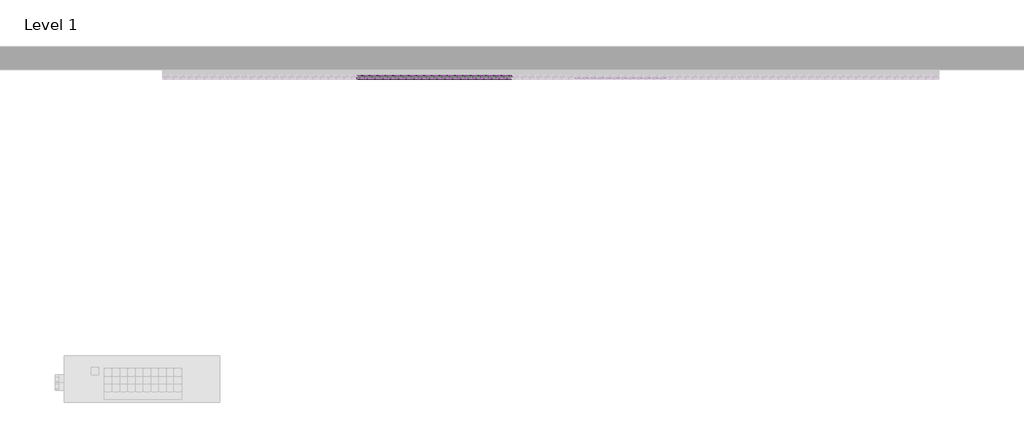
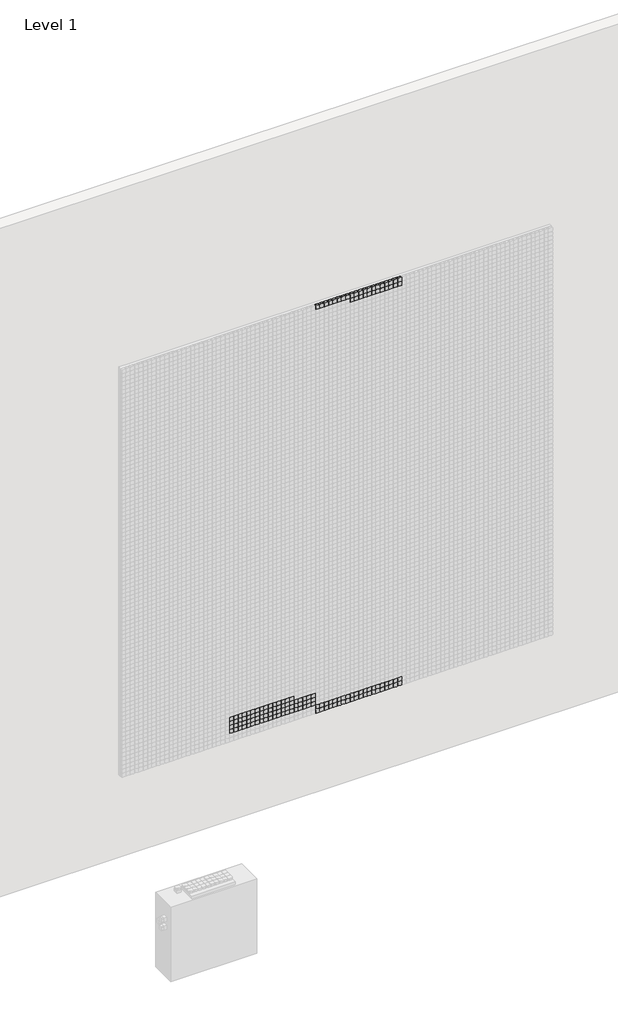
# One storey, part 34 of 71: 147 proxies.
"""IFC4 building model written with IfcOpenShell, lengths in millimetres."""

from ifc_helpers import new_model, si_unit, origin, place, context, project, spatial, transform, mapped, element, save
from components import generic_models_afde289c

model = new_model("IFC4")

# Units and contexts
model_context = context("Model", 3, world=origin())
ifc_project = project(units=[si_unit("LENGTHUNIT", "METRE", prefix="MILLI")], contexts=[model_context])

# Site, building, storey
site = spatial("IfcSite", under=ifc_project)
building = spatial("IfcBuilding", under=site)
storey = spatial("IfcBuildingStorey", under=building, Name="Level 1", Elevation=0.0)

# Proxies
placement = place(None, origin())
generic_models_shape = generic_models_afde289c(model_context)
element("IfcBuildingElementProxy", 1, Name="Pixel_M : Pixel_M", ObjectType="Pixel_M : Pixel_M", at=placement, inside=storey, context=model_context, shape_type="MappedRepresentation", body=[
    mapped(generic_models_shape, transform((7962.4280941, -75.0, 1016.3566215), x_axis=(1.0, 0.0, 0.0), y_axis=(0.0, 0.0, 1.0), z_axis=(0.0, -1.0, 0.0))),
])
element("IfcBuildingElementProxy", 2, Name="Pixel_M : Pixel_M", ObjectType="Pixel_M : Pixel_M", at=placement, inside=storey, context=model_context, shape_type="MappedRepresentation", body=[
    mapped(generic_models_shape, transform((7912.4280941, -75.0, 1016.3566215), x_axis=(1.0, 0.0, 0.0), y_axis=(0.0, 0.0, 1.0), z_axis=(0.0, -1.0, 0.0))),
])
element("IfcBuildingElementProxy", 3, Name="Pixel_M : Pixel_M", ObjectType="Pixel_M : Pixel_M", at=placement, inside=storey, context=model_context, shape_type="MappedRepresentation", body=[
    mapped(generic_models_shape, transform((7862.4280941, -75.0, 1016.3566215), x_axis=(1.0, 0.0, 0.0), y_axis=(0.0, 0.0, 1.0), z_axis=(0.0, -1.0, 0.0))),
])
element("IfcBuildingElementProxy", 4, Name="Pixel_M : Pixel_M", ObjectType="Pixel_M : Pixel_M", at=placement, inside=storey, context=model_context, shape_type="MappedRepresentation", body=[
    mapped(generic_models_shape, transform((7812.4280941, -75.0, 1016.3566215), x_axis=(1.0, 0.0, 0.0), y_axis=(0.0, 0.0, 1.0), z_axis=(0.0, -1.0, 0.0))),
])
element("IfcBuildingElementProxy", 5, Name="Pixel_M : Pixel_M", ObjectType="Pixel_M : Pixel_M", at=placement, inside=storey, context=model_context, shape_type="MappedRepresentation", body=[
    mapped(generic_models_shape, transform((7762.4280941, -75.0, 1016.3566215), x_axis=(1.0, 0.0, 0.0), y_axis=(0.0, 0.0, 1.0), z_axis=(0.0, -1.0, 0.0))),
])
element("IfcBuildingElementProxy", 6, Name="Pixel_M : Pixel_M", ObjectType="Pixel_M : Pixel_M", at=placement, inside=storey, context=model_context, shape_type="MappedRepresentation", body=[
    mapped(generic_models_shape, transform((7712.4280941, -75.0, 1016.3566215), x_axis=(1.0, 0.0, 0.0), y_axis=(0.0, 0.0, 1.0), z_axis=(0.0, -1.0, 0.0))),
])
element("IfcBuildingElementProxy", 7, Name="Pixel_M : Pixel_M", ObjectType="Pixel_M : Pixel_M", at=placement, inside=storey, context=model_context, shape_type="MappedRepresentation", body=[
    mapped(generic_models_shape, transform((7662.4280941, -75.0, 1016.3566215), x_axis=(1.0, 0.0, 0.0), y_axis=(0.0, 0.0, 1.0), z_axis=(0.0, -1.0, 0.0))),
])
element("IfcBuildingElementProxy", 8, Name="Pixel_M : Pixel_M", ObjectType="Pixel_M : Pixel_M", at=placement, inside=storey, context=model_context, shape_type="MappedRepresentation", body=[
    mapped(generic_models_shape, transform((7612.4280941, -75.0, 1016.3566215), x_axis=(1.0, 0.0, 0.0), y_axis=(0.0, 0.0, 1.0), z_axis=(0.0, -1.0, 0.0))),
])
element("IfcBuildingElementProxy", 9, Name="Pixel_M : Pixel_M", ObjectType="Pixel_M : Pixel_M", at=placement, inside=storey, context=model_context, shape_type="MappedRepresentation", body=[
    mapped(generic_models_shape, transform((7562.4280941, -75.0, 1016.3566215), x_axis=(1.0, 0.0, 0.0), y_axis=(0.0, 0.0, 1.0), z_axis=(0.0, -1.0, 0.0))),
])
element("IfcBuildingElementProxy", 10, Name="Pixel_M : Pixel_M", ObjectType="Pixel_M : Pixel_M", at=placement, inside=storey, context=model_context, shape_type="MappedRepresentation", body=[
    mapped(generic_models_shape, transform((7512.4280941, -75.0, 1016.3566215), x_axis=(1.0, 0.0, 0.0), y_axis=(0.0, 0.0, 1.0), z_axis=(0.0, -1.0, 0.0))),
])
element("IfcBuildingElementProxy", 11, Name="Pixel_M : Pixel_M", ObjectType="Pixel_M : Pixel_M", at=placement, inside=storey, context=model_context, shape_type="MappedRepresentation", body=[
    mapped(generic_models_shape, transform((7462.4280941, -75.0, 1016.3566215), x_axis=(1.0, 0.0, 0.0), y_axis=(0.0, 0.0, 1.0), z_axis=(0.0, -1.0, 0.0))),
])
element("IfcBuildingElementProxy", 12, Name="Pixel_M : Pixel_M", ObjectType="Pixel_M : Pixel_M", at=placement, inside=storey, context=model_context, shape_type="MappedRepresentation", body=[
    mapped(generic_models_shape, transform((7412.4280941, -75.0, 1016.3566215), x_axis=(1.0, 0.0, 0.0), y_axis=(0.0, 0.0, 1.0), z_axis=(0.0, -1.0, 0.0))),
])
element("IfcBuildingElementProxy", 13, Name="Pixel_M : Pixel_M", ObjectType="Pixel_M : Pixel_M", at=placement, inside=storey, context=model_context, shape_type="MappedRepresentation", body=[
    mapped(generic_models_shape, transform((7362.4280941, -75.0, 1016.3566215), x_axis=(1.0, 0.0, 0.0), y_axis=(0.0, 0.0, 1.0), z_axis=(0.0, -1.0, 0.0))),
])
element("IfcBuildingElementProxy", 14, Name="Pixel_M : Pixel_M", ObjectType="Pixel_M : Pixel_M", at=placement, inside=storey, context=model_context, shape_type="MappedRepresentation", body=[
    mapped(generic_models_shape, transform((7312.4280941, -75.0, 1016.3566215), x_axis=(1.0, 0.0, 0.0), y_axis=(0.0, 0.0, 1.0), z_axis=(0.0, -1.0, 0.0))),
])
element("IfcBuildingElementProxy", 15, Name="Pixel_M : Pixel_M", ObjectType="Pixel_M : Pixel_M", at=placement, inside=storey, context=model_context, shape_type="MappedRepresentation", body=[
    mapped(generic_models_shape, transform((7262.4280941, -75.0, 1016.3566215), x_axis=(1.0, 0.0, 0.0), y_axis=(0.0, 0.0, 1.0), z_axis=(0.0, -1.0, 0.0))),
])
element("IfcBuildingElementProxy", 16, Name="Pixel_M : Pixel_M", ObjectType="Pixel_M : Pixel_M", at=placement, inside=storey, context=model_context, shape_type="MappedRepresentation", body=[
    mapped(generic_models_shape, transform((7212.4280941, -75.0, 1016.3566215), x_axis=(1.0, 0.0, 0.0), y_axis=(0.0, 0.0, 1.0), z_axis=(0.0, -1.0, 0.0))),
])
element("IfcBuildingElementProxy", 17, Name="Pixel_M : Pixel_M", ObjectType="Pixel_M : Pixel_M", at=placement, inside=storey, context=model_context, shape_type="MappedRepresentation", body=[
    mapped(generic_models_shape, transform((7162.4280941, -75.0, 1016.3566215), x_axis=(1.0, 0.0, 0.0), y_axis=(0.0, 0.0, 1.0), z_axis=(0.0, -1.0, 0.0))),
])
element("IfcBuildingElementProxy", 18, Name="Pixel_M : Pixel_M", ObjectType="Pixel_M : Pixel_M", at=placement, inside=storey, context=model_context, shape_type="MappedRepresentation", body=[
    mapped(generic_models_shape, transform((7112.4280941, -75.0, 1016.3566215), x_axis=(1.0, 0.0, 0.0), y_axis=(0.0, 0.0, 1.0), z_axis=(0.0, -1.0, 0.0))),
])
element("IfcBuildingElementProxy", 19, Name="Pixel_M : Pixel_M", ObjectType="Pixel_M : Pixel_M", at=placement, inside=storey, context=model_context, shape_type="MappedRepresentation", body=[
    mapped(generic_models_shape, transform((7062.4280941, -75.0, 1016.3566215), x_axis=(1.0, 0.0, 0.0), y_axis=(0.0, 0.0, 1.0), z_axis=(0.0, -1.0, 0.0))),
])
element("IfcBuildingElementProxy", 20, Name="Pixel_M : Pixel_M", ObjectType="Pixel_M : Pixel_M", at=placement, inside=storey, context=model_context, shape_type="MappedRepresentation", body=[
    mapped(generic_models_shape, transform((7012.4280941, -75.0, 1016.3566215), x_axis=(1.0, 0.0, 0.0), y_axis=(0.0, 0.0, 1.0), z_axis=(0.0, -1.0, 0.0))),
])
element("IfcBuildingElementProxy", 21, Name="Pixel_M : Pixel_M", ObjectType="Pixel_M : Pixel_M", at=placement, inside=storey, context=model_context, shape_type="MappedRepresentation", body=[
    mapped(generic_models_shape, transform((7962.4280941, -75.0, 1066.3566215), x_axis=(1.0, 0.0, 0.0), y_axis=(0.0, 0.0, 1.0), z_axis=(0.0, -1.0, 0.0))),
])
element("IfcBuildingElementProxy", 22, Name="Pixel_M : Pixel_M", ObjectType="Pixel_M : Pixel_M", at=placement, inside=storey, context=model_context, shape_type="MappedRepresentation", body=[
    mapped(generic_models_shape, transform((7912.4280941, -75.0, 1066.3566215), x_axis=(1.0, 0.0, 0.0), y_axis=(0.0, 0.0, 1.0), z_axis=(0.0, -1.0, 0.0))),
])
element("IfcBuildingElementProxy", 23, Name="Pixel_M : Pixel_M", ObjectType="Pixel_M : Pixel_M", at=placement, inside=storey, context=model_context, shape_type="MappedRepresentation", body=[
    mapped(generic_models_shape, transform((7862.4280941, -75.0, 1066.3566215), x_axis=(1.0, 0.0, 0.0), y_axis=(0.0, 0.0, 1.0), z_axis=(0.0, -1.0, 0.0))),
])
element("IfcBuildingElementProxy", 24, Name="Pixel_M : Pixel_M", ObjectType="Pixel_M : Pixel_M", at=placement, inside=storey, context=model_context, shape_type="MappedRepresentation", body=[
    mapped(generic_models_shape, transform((7812.4280941, -75.0, 1066.3566215), x_axis=(1.0, 0.0, 0.0), y_axis=(0.0, 0.0, 1.0), z_axis=(0.0, -1.0, 0.0))),
])
element("IfcBuildingElementProxy", 25, Name="Pixel_M : Pixel_M", ObjectType="Pixel_M : Pixel_M", at=placement, inside=storey, context=model_context, shape_type="MappedRepresentation", body=[
    mapped(generic_models_shape, transform((7762.4280941, -75.0, 1066.3566215), x_axis=(1.0, 0.0, 0.0), y_axis=(0.0, 0.0, 1.0), z_axis=(0.0, -1.0, 0.0))),
])
element("IfcBuildingElementProxy", 26, Name="Pixel_M : Pixel_M", ObjectType="Pixel_M : Pixel_M", at=placement, inside=storey, context=model_context, shape_type="MappedRepresentation", body=[
    mapped(generic_models_shape, transform((7712.4280941, -75.0, 1066.3566215), x_axis=(1.0, 0.0, 0.0), y_axis=(0.0, 0.0, 1.0), z_axis=(0.0, -1.0, 0.0))),
])
element("IfcBuildingElementProxy", 27, Name="Pixel_M : Pixel_M", ObjectType="Pixel_M : Pixel_M", at=placement, inside=storey, context=model_context, shape_type="MappedRepresentation", body=[
    mapped(generic_models_shape, transform((7662.4280941, -75.0, 1066.3566215), x_axis=(1.0, 0.0, 0.0), y_axis=(0.0, 0.0, 1.0), z_axis=(0.0, -1.0, 0.0))),
])
element("IfcBuildingElementProxy", 28, Name="Pixel_M : Pixel_M", ObjectType="Pixel_M : Pixel_M", at=placement, inside=storey, context=model_context, shape_type="MappedRepresentation", body=[
    mapped(generic_models_shape, transform((7612.4280941, -75.0, 1066.3566215), x_axis=(1.0, 0.0, 0.0), y_axis=(0.0, 0.0, 1.0), z_axis=(0.0, -1.0, 0.0))),
])
element("IfcBuildingElementProxy", 29, Name="Pixel_M : Pixel_M", ObjectType="Pixel_M : Pixel_M", at=placement, inside=storey, context=model_context, shape_type="MappedRepresentation", body=[
    mapped(generic_models_shape, transform((7562.4280941, -75.0, 1066.3566215), x_axis=(1.0, 0.0, 0.0), y_axis=(0.0, 0.0, 1.0), z_axis=(0.0, -1.0, 0.0))),
])
element("IfcBuildingElementProxy", 30, Name="Pixel_M : Pixel_M", ObjectType="Pixel_M : Pixel_M", at=placement, inside=storey, context=model_context, shape_type="MappedRepresentation", body=[
    mapped(generic_models_shape, transform((7512.4280941, -75.0, 1066.3566215), x_axis=(1.0, 0.0, 0.0), y_axis=(0.0, 0.0, 1.0), z_axis=(0.0, -1.0, 0.0))),
])
element("IfcBuildingElementProxy", 31, Name="Pixel_M : Pixel_M", ObjectType="Pixel_M : Pixel_M", at=placement, inside=storey, context=model_context, shape_type="MappedRepresentation", body=[
    mapped(generic_models_shape, transform((7462.4280941, -75.0, 1066.3566215), x_axis=(1.0, 0.0, 0.0), y_axis=(0.0, 0.0, 1.0), z_axis=(0.0, -1.0, 0.0))),
])
element("IfcBuildingElementProxy", 32, Name="Pixel_M : Pixel_M", ObjectType="Pixel_M : Pixel_M", at=placement, inside=storey, context=model_context, shape_type="MappedRepresentation", body=[
    mapped(generic_models_shape, transform((7412.4280941, -75.0, 1066.3566215), x_axis=(1.0, 0.0, 0.0), y_axis=(0.0, 0.0, 1.0), z_axis=(0.0, -1.0, 0.0))),
])
element("IfcBuildingElementProxy", 33, Name="Pixel_M : Pixel_M", ObjectType="Pixel_M : Pixel_M", at=placement, inside=storey, context=model_context, shape_type="MappedRepresentation", body=[
    mapped(generic_models_shape, transform((7362.4280941, -75.0, 1066.3566215), x_axis=(1.0, 0.0, 0.0), y_axis=(0.0, 0.0, 1.0), z_axis=(0.0, -1.0, 0.0))),
])
element("IfcBuildingElementProxy", 34, Name="Pixel_M : Pixel_M", ObjectType="Pixel_M : Pixel_M", at=placement, inside=storey, context=model_context, shape_type="MappedRepresentation", body=[
    mapped(generic_models_shape, transform((7312.4280941, -75.0, 1066.3566215), x_axis=(1.0, 0.0, 0.0), y_axis=(0.0, 0.0, 1.0), z_axis=(0.0, -1.0, 0.0))),
])
element("IfcBuildingElementProxy", 35, Name="Pixel_M : Pixel_M", ObjectType="Pixel_M : Pixel_M", at=placement, inside=storey, context=model_context, shape_type="MappedRepresentation", body=[
    mapped(generic_models_shape, transform((7262.4280941, -75.0, 1066.3566215), x_axis=(1.0, 0.0, 0.0), y_axis=(0.0, 0.0, 1.0), z_axis=(0.0, -1.0, 0.0))),
])
element("IfcBuildingElementProxy", 36, Name="Pixel_M : Pixel_M", ObjectType="Pixel_M : Pixel_M", at=placement, inside=storey, context=model_context, shape_type="MappedRepresentation", body=[
    mapped(generic_models_shape, transform((7212.4280941, -75.0, 1066.3566215), x_axis=(1.0, 0.0, 0.0), y_axis=(0.0, 0.0, 1.0), z_axis=(0.0, -1.0, 0.0))),
])
element("IfcBuildingElementProxy", 37, Name="Pixel_M : Pixel_M", ObjectType="Pixel_M : Pixel_M", at=placement, inside=storey, context=model_context, shape_type="MappedRepresentation", body=[
    mapped(generic_models_shape, transform((7162.4280941, -75.0, 1066.3566215), x_axis=(1.0, 0.0, 0.0), y_axis=(0.0, 0.0, 1.0), z_axis=(0.0, -1.0, 0.0))),
])
element("IfcBuildingElementProxy", 38, Name="Pixel_M : Pixel_M", ObjectType="Pixel_M : Pixel_M", at=placement, inside=storey, context=model_context, shape_type="MappedRepresentation", body=[
    mapped(generic_models_shape, transform((7112.4280941, -75.0, 1066.3566215), x_axis=(1.0, 0.0, 0.0), y_axis=(0.0, 0.0, 1.0), z_axis=(0.0, -1.0, 0.0))),
])
element("IfcBuildingElementProxy", 39, Name="Pixel_M : Pixel_M", ObjectType="Pixel_M : Pixel_M", at=placement, inside=storey, context=model_context, shape_type="MappedRepresentation", body=[
    mapped(generic_models_shape, transform((7062.4280941, -75.0, 1066.3566215), x_axis=(1.0, 0.0, 0.0), y_axis=(0.0, 0.0, 1.0), z_axis=(0.0, -1.0, 0.0))),
])
element("IfcBuildingElementProxy", 40, Name="Pixel_M : Pixel_M", ObjectType="Pixel_M : Pixel_M", at=placement, inside=storey, context=model_context, shape_type="MappedRepresentation", body=[
    mapped(generic_models_shape, transform((7012.4280941, -75.0, 1066.3566215), x_axis=(1.0, 0.0, 0.0), y_axis=(0.0, 0.0, 1.0), z_axis=(0.0, -1.0, 0.0))),
])
element("IfcBuildingElementProxy", 41, Name="Pixel_M : Pixel_M", ObjectType="Pixel_M : Pixel_M", at=placement, inside=storey, context=model_context, shape_type="MappedRepresentation", body=[
    mapped(generic_models_shape, transform((7962.4280941, -75.0, 5966.3566215), x_axis=(1.0, 0.0, 0.0), y_axis=(0.0, 0.0, 1.0), z_axis=(0.0, -1.0, 0.0))),
])
element("IfcBuildingElementProxy", 42, Name="Pixel_M : Pixel_M", ObjectType="Pixel_M : Pixel_M", at=placement, inside=storey, context=model_context, shape_type="MappedRepresentation", body=[
    mapped(generic_models_shape, transform((7912.4280941, -75.0, 5966.3566215), x_axis=(1.0, 0.0, 0.0), y_axis=(0.0, 0.0, 1.0), z_axis=(0.0, -1.0, 0.0))),
])
element("IfcBuildingElementProxy", 43, Name="Pixel_M : Pixel_M", ObjectType="Pixel_M : Pixel_M", at=placement, inside=storey, context=model_context, shape_type="MappedRepresentation", body=[
    mapped(generic_models_shape, transform((7862.4280941, -75.0, 5966.3566215), x_axis=(1.0, 0.0, 0.0), y_axis=(0.0, 0.0, 1.0), z_axis=(0.0, -1.0, 0.0))),
])
element("IfcBuildingElementProxy", 44, Name="Pixel_M : Pixel_M", ObjectType="Pixel_M : Pixel_M", at=placement, inside=storey, context=model_context, shape_type="MappedRepresentation", body=[
    mapped(generic_models_shape, transform((7812.4280941, -75.0, 5966.3566215), x_axis=(1.0, 0.0, 0.0), y_axis=(0.0, 0.0, 1.0), z_axis=(0.0, -1.0, 0.0))),
])
element("IfcBuildingElementProxy", 45, Name="Pixel_M : Pixel_M", ObjectType="Pixel_M : Pixel_M", at=placement, inside=storey, context=model_context, shape_type="MappedRepresentation", body=[
    mapped(generic_models_shape, transform((7762.4280941, -75.0, 5966.3566215), x_axis=(1.0, 0.0, 0.0), y_axis=(0.0, 0.0, 1.0), z_axis=(0.0, -1.0, 0.0))),
])
element("IfcBuildingElementProxy", 46, Name="Pixel_M : Pixel_M", ObjectType="Pixel_M : Pixel_M", at=placement, inside=storey, context=model_context, shape_type="MappedRepresentation", body=[
    mapped(generic_models_shape, transform((7712.4280941, -75.0, 5966.3566215), x_axis=(1.0, 0.0, 0.0), y_axis=(0.0, 0.0, 1.0), z_axis=(0.0, -1.0, 0.0))),
])
element("IfcBuildingElementProxy", 47, Name="Pixel_M : Pixel_M", ObjectType="Pixel_M : Pixel_M", at=placement, inside=storey, context=model_context, shape_type="MappedRepresentation", body=[
    mapped(generic_models_shape, transform((7662.4280941, -75.0, 5966.3566215), x_axis=(1.0, 0.0, 0.0), y_axis=(0.0, 0.0, 1.0), z_axis=(0.0, -1.0, 0.0))),
])
element("IfcBuildingElementProxy", 48, Name="Pixel_M : Pixel_M", ObjectType="Pixel_M : Pixel_M", at=placement, inside=storey, context=model_context, shape_type="MappedRepresentation", body=[
    mapped(generic_models_shape, transform((7612.4280941, -75.0, 5966.3566215), x_axis=(1.0, 0.0, 0.0), y_axis=(0.0, 0.0, 1.0), z_axis=(0.0, -1.0, 0.0))),
])
element("IfcBuildingElementProxy", 49, Name="Pixel_M : Pixel_M", ObjectType="Pixel_M : Pixel_M", at=placement, inside=storey, context=model_context, shape_type="MappedRepresentation", body=[
    mapped(generic_models_shape, transform((7562.4280941, -75.0, 5966.3566215), x_axis=(1.0, 0.0, 0.0), y_axis=(0.0, 0.0, 1.0), z_axis=(0.0, -1.0, 0.0))),
])
element("IfcBuildingElementProxy", 50, Name="Pixel_M : Pixel_M", ObjectType="Pixel_M : Pixel_M", at=placement, inside=storey, context=model_context, shape_type="MappedRepresentation", body=[
    mapped(generic_models_shape, transform((7512.4280941, -75.0, 5966.3566215), x_axis=(1.0, 0.0, 0.0), y_axis=(0.0, 0.0, 1.0), z_axis=(0.0, -1.0, 0.0))),
])
element("IfcBuildingElementProxy", 51, Name="Pixel_M : Pixel_M", ObjectType="Pixel_M : Pixel_M", at=placement, inside=storey, context=model_context, shape_type="MappedRepresentation", body=[
    mapped(generic_models_shape, transform((7462.4280941, -75.0, 5966.3566215), x_axis=(1.0, 0.0, 0.0), y_axis=(0.0, 0.0, 1.0), z_axis=(0.0, -1.0, 0.0))),
])
element("IfcBuildingElementProxy", 52, Name="Pixel_M : Pixel_M", ObjectType="Pixel_M : Pixel_M", at=placement, inside=storey, context=model_context, shape_type="MappedRepresentation", body=[
    mapped(generic_models_shape, transform((7412.4280941, -75.0, 5966.3566215), x_axis=(1.0, 0.0, 0.0), y_axis=(0.0, 0.0, 1.0), z_axis=(0.0, -1.0, 0.0))),
])
element("IfcBuildingElementProxy", 53, Name="Pixel_M : Pixel_M", ObjectType="Pixel_M : Pixel_M", at=placement, inside=storey, context=model_context, shape_type="MappedRepresentation", body=[
    mapped(generic_models_shape, transform((7362.4280941, -75.0, 5966.3566215), x_axis=(1.0, 0.0, 0.0), y_axis=(0.0, 0.0, 1.0), z_axis=(0.0, -1.0, 0.0))),
])
element("IfcBuildingElementProxy", 54, Name="Pixel_M : Pixel_M", ObjectType="Pixel_M : Pixel_M", at=placement, inside=storey, context=model_context, shape_type="MappedRepresentation", body=[
    mapped(generic_models_shape, transform((7312.4280941, -75.0, 5966.3566215), x_axis=(1.0, 0.0, 0.0), y_axis=(0.0, 0.0, 1.0), z_axis=(0.0, -1.0, 0.0))),
])
element("IfcBuildingElementProxy", 55, Name="Pixel_M : Pixel_M", ObjectType="Pixel_M : Pixel_M", at=placement, inside=storey, context=model_context, shape_type="MappedRepresentation", body=[
    mapped(generic_models_shape, transform((7262.4280941, -75.0, 5966.3566215), x_axis=(1.0, 0.0, 0.0), y_axis=(0.0, 0.0, 1.0), z_axis=(0.0, -1.0, 0.0))),
])
element("IfcBuildingElementProxy", 56, Name="Pixel_M : Pixel_M", ObjectType="Pixel_M : Pixel_M", at=placement, inside=storey, context=model_context, shape_type="MappedRepresentation", body=[
    mapped(generic_models_shape, transform((7212.4280941, -75.0, 5966.3566215), x_axis=(1.0, 0.0, 0.0), y_axis=(0.0, 0.0, 1.0), z_axis=(0.0, -1.0, 0.0))),
])
element("IfcBuildingElementProxy", 57, Name="Pixel_M : Pixel_M", ObjectType="Pixel_M : Pixel_M", at=placement, inside=storey, context=model_context, shape_type="MappedRepresentation", body=[
    mapped(generic_models_shape, transform((7162.4280941, -75.0, 5966.3566215), x_axis=(1.0, 0.0, 0.0), y_axis=(0.0, 0.0, 1.0), z_axis=(0.0, -1.0, 0.0))),
])
element("IfcBuildingElementProxy", 58, Name="Pixel_M : Pixel_M", ObjectType="Pixel_M : Pixel_M", at=placement, inside=storey, context=model_context, shape_type="MappedRepresentation", body=[
    mapped(generic_models_shape, transform((7112.4280941, -75.0, 5966.3566215), x_axis=(1.0, 0.0, 0.0), y_axis=(0.0, 0.0, 1.0), z_axis=(0.0, -1.0, 0.0))),
])
element("IfcBuildingElementProxy", 59, Name="Pixel_M : Pixel_M", ObjectType="Pixel_M : Pixel_M", at=placement, inside=storey, context=model_context, shape_type="MappedRepresentation", body=[
    mapped(generic_models_shape, transform((7062.4280941, -75.0, 5966.3566215), x_axis=(1.0, 0.0, 0.0), y_axis=(0.0, 0.0, 1.0), z_axis=(0.0, -1.0, 0.0))),
])
element("IfcBuildingElementProxy", 60, Name="Pixel_M : Pixel_M", ObjectType="Pixel_M : Pixel_M", at=placement, inside=storey, context=model_context, shape_type="MappedRepresentation", body=[
    mapped(generic_models_shape, transform((7012.4280941, -75.0, 5966.3566215), x_axis=(1.0, 0.0, 0.0), y_axis=(0.0, 0.0, 1.0), z_axis=(0.0, -1.0, 0.0))),
])
element("IfcBuildingElementProxy", 61, Name="Pixel_M : Pixel_M", ObjectType="Pixel_M : Pixel_M", at=placement, inside=storey, context=model_context, shape_type="MappedRepresentation", body=[
    mapped(generic_models_shape, transform((7962.4280941, -75.0, 5916.3566215), x_axis=(1.0, 0.0, 0.0), y_axis=(0.0, 0.0, 1.0), z_axis=(0.0, -1.0, 0.0))),
])
element("IfcBuildingElementProxy", 62, Name="Pixel_M : Pixel_M", ObjectType="Pixel_M : Pixel_M", at=placement, inside=storey, context=model_context, shape_type="MappedRepresentation", body=[
    mapped(generic_models_shape, transform((7912.4280941, -75.0, 5916.3566215), x_axis=(1.0, 0.0, 0.0), y_axis=(0.0, 0.0, 1.0), z_axis=(0.0, -1.0, 0.0))),
])
element("IfcBuildingElementProxy", 63, Name="Pixel_M : Pixel_M", ObjectType="Pixel_M : Pixel_M", at=placement, inside=storey, context=model_context, shape_type="MappedRepresentation", body=[
    mapped(generic_models_shape, transform((7862.4280941, -75.0, 5916.3566215), x_axis=(1.0, 0.0, 0.0), y_axis=(0.0, 0.0, 1.0), z_axis=(0.0, -1.0, 0.0))),
])
element("IfcBuildingElementProxy", 64, Name="Pixel_M : Pixel_M", ObjectType="Pixel_M : Pixel_M", at=placement, inside=storey, context=model_context, shape_type="MappedRepresentation", body=[
    mapped(generic_models_shape, transform((7812.4280941, -75.0, 5916.3566215), x_axis=(1.0, 0.0, 0.0), y_axis=(0.0, 0.0, 1.0), z_axis=(0.0, -1.0, 0.0))),
])
element("IfcBuildingElementProxy", 65, Name="Pixel_M : Pixel_M", ObjectType="Pixel_M : Pixel_M", at=placement, inside=storey, context=model_context, shape_type="MappedRepresentation", body=[
    mapped(generic_models_shape, transform((7762.4280941, -75.0, 5916.3566215), x_axis=(1.0, 0.0, 0.0), y_axis=(0.0, 0.0, 1.0), z_axis=(0.0, -1.0, 0.0))),
])
element("IfcBuildingElementProxy", 66, Name="Pixel_M : Pixel_M", ObjectType="Pixel_M : Pixel_M", at=placement, inside=storey, context=model_context, shape_type="MappedRepresentation", body=[
    mapped(generic_models_shape, transform((7712.4280941, -75.0, 5916.3566215), x_axis=(1.0, 0.0, 0.0), y_axis=(0.0, 0.0, 1.0), z_axis=(0.0, -1.0, 0.0))),
])
element("IfcBuildingElementProxy", 67, Name="Pixel_M : Pixel_M", ObjectType="Pixel_M : Pixel_M", at=placement, inside=storey, context=model_context, shape_type="MappedRepresentation", body=[
    mapped(generic_models_shape, transform((7662.4280941, -75.0, 5916.3566215), x_axis=(1.0, 0.0, 0.0), y_axis=(0.0, 0.0, 1.0), z_axis=(0.0, -1.0, 0.0))),
])
element("IfcBuildingElementProxy", 68, Name="Pixel_M : Pixel_M", ObjectType="Pixel_M : Pixel_M", at=placement, inside=storey, context=model_context, shape_type="MappedRepresentation", body=[
    mapped(generic_models_shape, transform((7612.4280941, -75.0, 5916.3566215), x_axis=(1.0, 0.0, 0.0), y_axis=(0.0, 0.0, 1.0), z_axis=(0.0, -1.0, 0.0))),
])
element("IfcBuildingElementProxy", 69, Name="Pixel_M : Pixel_M", ObjectType="Pixel_M : Pixel_M", at=placement, inside=storey, context=model_context, shape_type="MappedRepresentation", body=[
    mapped(generic_models_shape, transform((7562.4280941, -75.0, 5916.3566215), x_axis=(1.0, 0.0, 0.0), y_axis=(0.0, 0.0, 1.0), z_axis=(0.0, -1.0, 0.0))),
])
element("IfcBuildingElementProxy", 70, Name="Pixel_M : Pixel_M", ObjectType="Pixel_M : Pixel_M", at=placement, inside=storey, context=model_context, shape_type="MappedRepresentation", body=[
    mapped(generic_models_shape, transform((7512.4280941, -75.0, 5916.3566215), x_axis=(1.0, 0.0, 0.0), y_axis=(0.0, 0.0, 1.0), z_axis=(0.0, -1.0, 0.0))),
])
element("IfcBuildingElementProxy", 71, Name="Pixel_M : Pixel_M", ObjectType="Pixel_M : Pixel_M", at=placement, inside=storey, context=model_context, shape_type="MappedRepresentation", body=[
    mapped(generic_models_shape, transform((7462.4280941, -75.0, 5916.3566215), x_axis=(1.0, 0.0, 0.0), y_axis=(0.0, 0.0, 1.0), z_axis=(0.0, -1.0, 0.0))),
])
element("IfcBuildingElementProxy", 72, Name="Pixel_M : Pixel_M", ObjectType="Pixel_M : Pixel_M", at=placement, inside=storey, context=model_context, shape_type="MappedRepresentation", body=[
    mapped(generic_models_shape, transform((7412.4280941, -75.0, 5916.3566215), x_axis=(1.0, 0.0, 0.0), y_axis=(0.0, 0.0, 1.0), z_axis=(0.0, -1.0, 0.0))),
])
element("IfcBuildingElementProxy", 73, Name="Pixel_M : Pixel_M", ObjectType="Pixel_M : Pixel_M", at=placement, inside=storey, context=model_context, shape_type="MappedRepresentation", body=[
    mapped(generic_models_shape, transform((6712.4280941, -75.0, 1266.3566215), x_axis=(1.0, 0.0, 0.0), y_axis=(0.0, 0.0, 1.0), z_axis=(0.0, -1.0, 0.0))),
])
element("IfcBuildingElementProxy", 74, Name="Pixel_M : Pixel_M", ObjectType="Pixel_M : Pixel_M", at=placement, inside=storey, context=model_context, shape_type="MappedRepresentation", body=[
    mapped(generic_models_shape, transform((6662.4280941, -75.0, 1266.3566215), x_axis=(1.0, 0.0, 0.0), y_axis=(0.0, 0.0, 1.0), z_axis=(0.0, -1.0, 0.0))),
])
element("IfcBuildingElementProxy", 75, Name="Pixel_M : Pixel_M", ObjectType="Pixel_M : Pixel_M", at=placement, inside=storey, context=model_context, shape_type="MappedRepresentation", body=[
    mapped(generic_models_shape, transform((6612.4280941, -75.0, 1266.3566215), x_axis=(1.0, 0.0, 0.0), y_axis=(0.0, 0.0, 1.0), z_axis=(0.0, -1.0, 0.0))),
])
element("IfcBuildingElementProxy", 76, Name="Pixel_M : Pixel_M", ObjectType="Pixel_M : Pixel_M", at=placement, inside=storey, context=model_context, shape_type="MappedRepresentation", body=[
    mapped(generic_models_shape, transform((6562.4280941, -75.0, 1266.3566215), x_axis=(1.0, 0.0, 0.0), y_axis=(0.0, 0.0, 1.0), z_axis=(0.0, -1.0, 0.0))),
])
element("IfcBuildingElementProxy", 77, Name="Pixel_M : Pixel_M", ObjectType="Pixel_M : Pixel_M", at=placement, inside=storey, context=model_context, shape_type="MappedRepresentation", body=[
    mapped(generic_models_shape, transform((6512.4280941, -75.0, 1266.3566215), x_axis=(1.0, 0.0, 0.0), y_axis=(0.0, 0.0, 1.0), z_axis=(0.0, -1.0, 0.0))),
])
element("IfcBuildingElementProxy", 78, Name="Pixel_M : Pixel_M", ObjectType="Pixel_M : Pixel_M", at=placement, inside=storey, context=model_context, shape_type="MappedRepresentation", body=[
    mapped(generic_models_shape, transform((6462.4280941, -75.0, 1266.3566215), x_axis=(1.0, 0.0, 0.0), y_axis=(0.0, 0.0, 1.0), z_axis=(0.0, -1.0, 0.0))),
])
element("IfcBuildingElementProxy", 79, Name="Pixel_M : Pixel_M", ObjectType="Pixel_M : Pixel_M", at=placement, inside=storey, context=model_context, shape_type="MappedRepresentation", body=[
    mapped(generic_models_shape, transform((6412.4280941, -75.0, 1266.3566215), x_axis=(1.0, 0.0, 0.0), y_axis=(0.0, 0.0, 1.0), z_axis=(0.0, -1.0, 0.0))),
])
element("IfcBuildingElementProxy", 80, Name="Pixel_M : Pixel_M", ObjectType="Pixel_M : Pixel_M", at=placement, inside=storey, context=model_context, shape_type="MappedRepresentation", body=[
    mapped(generic_models_shape, transform((6362.4280941, -75.0, 1266.3566215), x_axis=(1.0, 0.0, 0.0), y_axis=(0.0, 0.0, 1.0), z_axis=(0.0, -1.0, 0.0))),
])
element("IfcBuildingElementProxy", 81, Name="Pixel_M : Pixel_M", ObjectType="Pixel_M : Pixel_M", at=placement, inside=storey, context=model_context, shape_type="MappedRepresentation", body=[
    mapped(generic_models_shape, transform((6312.4280941, -75.0, 1266.3566215), x_axis=(1.0, 0.0, 0.0), y_axis=(0.0, 0.0, 1.0), z_axis=(0.0, -1.0, 0.0))),
])
element("IfcBuildingElementProxy", 82, Name="Pixel_M : Pixel_M", ObjectType="Pixel_M : Pixel_M", at=placement, inside=storey, context=model_context, shape_type="MappedRepresentation", body=[
    mapped(generic_models_shape, transform((6262.4280941, -75.0, 1266.3566215), x_axis=(1.0, 0.0, 0.0), y_axis=(0.0, 0.0, 1.0), z_axis=(0.0, -1.0, 0.0))),
])
element("IfcBuildingElementProxy", 83, Name="Pixel_M : Pixel_M", ObjectType="Pixel_M : Pixel_M", at=placement, inside=storey, context=model_context, shape_type="MappedRepresentation", body=[
    mapped(generic_models_shape, transform((6212.4280941, -75.0, 1266.3566215), x_axis=(1.0, 0.0, 0.0), y_axis=(0.0, 0.0, 1.0), z_axis=(0.0, -1.0, 0.0))),
])
element("IfcBuildingElementProxy", 84, Name="Pixel_M : Pixel_M", ObjectType="Pixel_M : Pixel_M", at=placement, inside=storey, context=model_context, shape_type="MappedRepresentation", body=[
    mapped(generic_models_shape, transform((6162.4280941, -75.0, 1266.3566215), x_axis=(1.0, 0.0, 0.0), y_axis=(0.0, 0.0, 1.0), z_axis=(0.0, -1.0, 0.0))),
])
element("IfcBuildingElementProxy", 85, Name="Pixel_M : Pixel_M", ObjectType="Pixel_M : Pixel_M", at=placement, inside=storey, context=model_context, shape_type="MappedRepresentation", body=[
    mapped(generic_models_shape, transform((6112.4280941, -75.0, 1266.3566215), x_axis=(1.0, 0.0, 0.0), y_axis=(0.0, 0.0, 1.0), z_axis=(0.0, -1.0, 0.0))),
])
element("IfcBuildingElementProxy", 86, Name="Pixel_M : Pixel_M", ObjectType="Pixel_M : Pixel_M", at=placement, inside=storey, context=model_context, shape_type="MappedRepresentation", body=[
    mapped(generic_models_shape, transform((6062.4280941, -75.0, 1266.3566215), x_axis=(1.0, 0.0, 0.0), y_axis=(0.0, 0.0, 1.0), z_axis=(0.0, -1.0, 0.0))),
])
element("IfcBuildingElementProxy", 87, Name="Pixel_M : Pixel_M", ObjectType="Pixel_M : Pixel_M", at=placement, inside=storey, context=model_context, shape_type="MappedRepresentation", body=[
    mapped(generic_models_shape, transform((6012.4280941, -75.0, 1266.3566215), x_axis=(1.0, 0.0, 0.0), y_axis=(0.0, 0.0, 1.0), z_axis=(0.0, -1.0, 0.0))),
])
element("IfcBuildingElementProxy", 88, Name="Pixel_M : Pixel_M", ObjectType="Pixel_M : Pixel_M", at=placement, inside=storey, context=model_context, shape_type="MappedRepresentation", body=[
    mapped(generic_models_shape, transform((6962.4280941, -75.0, 1216.3566215), x_axis=(1.0, 0.0, 0.0), y_axis=(0.0, 0.0, 1.0), z_axis=(0.0, -1.0, 0.0))),
])
element("IfcBuildingElementProxy", 89, Name="Pixel_M : Pixel_M", ObjectType="Pixel_M : Pixel_M", at=placement, inside=storey, context=model_context, shape_type="MappedRepresentation", body=[
    mapped(generic_models_shape, transform((6912.4280941, -75.0, 1216.3566215), x_axis=(1.0, 0.0, 0.0), y_axis=(0.0, 0.0, 1.0), z_axis=(0.0, -1.0, 0.0))),
])
element("IfcBuildingElementProxy", 90, Name="Pixel_M : Pixel_M", ObjectType="Pixel_M : Pixel_M", at=placement, inside=storey, context=model_context, shape_type="MappedRepresentation", body=[
    mapped(generic_models_shape, transform((6862.4280941, -75.0, 1216.3566215), x_axis=(1.0, 0.0, 0.0), y_axis=(0.0, 0.0, 1.0), z_axis=(0.0, -1.0, 0.0))),
])
element("IfcBuildingElementProxy", 91, Name="Pixel_M : Pixel_M", ObjectType="Pixel_M : Pixel_M", at=placement, inside=storey, context=model_context, shape_type="MappedRepresentation", body=[
    mapped(generic_models_shape, transform((6812.4280941, -75.0, 1216.3566215), x_axis=(1.0, 0.0, 0.0), y_axis=(0.0, 0.0, 1.0), z_axis=(0.0, -1.0, 0.0))),
])
element("IfcBuildingElementProxy", 92, Name="Pixel_M : Pixel_M", ObjectType="Pixel_M : Pixel_M", at=placement, inside=storey, context=model_context, shape_type="MappedRepresentation", body=[
    mapped(generic_models_shape, transform((6762.4280941, -75.0, 1216.3566215), x_axis=(1.0, 0.0, 0.0), y_axis=(0.0, 0.0, 1.0), z_axis=(0.0, -1.0, 0.0))),
])
element("IfcBuildingElementProxy", 93, Name="Pixel_M : Pixel_M", ObjectType="Pixel_M : Pixel_M", at=placement, inside=storey, context=model_context, shape_type="MappedRepresentation", body=[
    mapped(generic_models_shape, transform((6712.4280941, -75.0, 1216.3566215), x_axis=(1.0, 0.0, 0.0), y_axis=(0.0, 0.0, 1.0), z_axis=(0.0, -1.0, 0.0))),
])
element("IfcBuildingElementProxy", 94, Name="Pixel_M : Pixel_M", ObjectType="Pixel_M : Pixel_M", at=placement, inside=storey, context=model_context, shape_type="MappedRepresentation", body=[
    mapped(generic_models_shape, transform((6662.4280941, -75.0, 1216.3566215), x_axis=(1.0, 0.0, 0.0), y_axis=(0.0, 0.0, 1.0), z_axis=(0.0, -1.0, 0.0))),
])
element("IfcBuildingElementProxy", 95, Name="Pixel_M : Pixel_M", ObjectType="Pixel_M : Pixel_M", at=placement, inside=storey, context=model_context, shape_type="MappedRepresentation", body=[
    mapped(generic_models_shape, transform((6612.4280941, -75.0, 1216.3566215), x_axis=(1.0, 0.0, 0.0), y_axis=(0.0, 0.0, 1.0), z_axis=(0.0, -1.0, 0.0))),
])
element("IfcBuildingElementProxy", 96, Name="Pixel_M : Pixel_M", ObjectType="Pixel_M : Pixel_M", at=placement, inside=storey, context=model_context, shape_type="MappedRepresentation", body=[
    mapped(generic_models_shape, transform((6562.4280941, -75.0, 1216.3566215), x_axis=(1.0, 0.0, 0.0), y_axis=(0.0, 0.0, 1.0), z_axis=(0.0, -1.0, 0.0))),
])
element("IfcBuildingElementProxy", 97, Name="Pixel_M : Pixel_M", ObjectType="Pixel_M : Pixel_M", at=placement, inside=storey, context=model_context, shape_type="MappedRepresentation", body=[
    mapped(generic_models_shape, transform((6512.4280941, -75.0, 1216.3566215), x_axis=(1.0, 0.0, 0.0), y_axis=(0.0, 0.0, 1.0), z_axis=(0.0, -1.0, 0.0))),
])
element("IfcBuildingElementProxy", 98, Name="Pixel_M : Pixel_M", ObjectType="Pixel_M : Pixel_M", at=placement, inside=storey, context=model_context, shape_type="MappedRepresentation", body=[
    mapped(generic_models_shape, transform((6462.4280941, -75.0, 1216.3566215), x_axis=(1.0, 0.0, 0.0), y_axis=(0.0, 0.0, 1.0), z_axis=(0.0, -1.0, 0.0))),
])
element("IfcBuildingElementProxy", 99, Name="Pixel_M : Pixel_M", ObjectType="Pixel_M : Pixel_M", at=placement, inside=storey, context=model_context, shape_type="MappedRepresentation", body=[
    mapped(generic_models_shape, transform((6412.4280941, -75.0, 1216.3566215), x_axis=(1.0, 0.0, 0.0), y_axis=(0.0, 0.0, 1.0), z_axis=(0.0, -1.0, 0.0))),
])
element("IfcBuildingElementProxy", 100, Name="Pixel_M : Pixel_M", ObjectType="Pixel_M : Pixel_M", at=placement, inside=storey, context=model_context, shape_type="MappedRepresentation", body=[
    mapped(generic_models_shape, transform((6362.4280941, -75.0, 1216.3566215), x_axis=(1.0, 0.0, 0.0), y_axis=(0.0, 0.0, 1.0), z_axis=(0.0, -1.0, 0.0))),
])
element("IfcBuildingElementProxy", 101, Name="Pixel_M : Pixel_M", ObjectType="Pixel_M : Pixel_M", at=placement, inside=storey, context=model_context, shape_type="MappedRepresentation", body=[
    mapped(generic_models_shape, transform((6312.4280941, -75.0, 1216.3566215), x_axis=(1.0, 0.0, 0.0), y_axis=(0.0, 0.0, 1.0), z_axis=(0.0, -1.0, 0.0))),
])
element("IfcBuildingElementProxy", 102, Name="Pixel_M : Pixel_M", ObjectType="Pixel_M : Pixel_M", at=placement, inside=storey, context=model_context, shape_type="MappedRepresentation", body=[
    mapped(generic_models_shape, transform((6262.4280941, -75.0, 1216.3566215), x_axis=(1.0, 0.0, 0.0), y_axis=(0.0, 0.0, 1.0), z_axis=(0.0, -1.0, 0.0))),
])
element("IfcBuildingElementProxy", 103, Name="Pixel_M : Pixel_M", ObjectType="Pixel_M : Pixel_M", at=placement, inside=storey, context=model_context, shape_type="MappedRepresentation", body=[
    mapped(generic_models_shape, transform((6212.4280941, -75.0, 1216.3566215), x_axis=(1.0, 0.0, 0.0), y_axis=(0.0, 0.0, 1.0), z_axis=(0.0, -1.0, 0.0))),
])
element("IfcBuildingElementProxy", 104, Name="Pixel_M : Pixel_M", ObjectType="Pixel_M : Pixel_M", at=placement, inside=storey, context=model_context, shape_type="MappedRepresentation", body=[
    mapped(generic_models_shape, transform((6162.4280941, -75.0, 1216.3566215), x_axis=(1.0, 0.0, 0.0), y_axis=(0.0, 0.0, 1.0), z_axis=(0.0, -1.0, 0.0))),
])
element("IfcBuildingElementProxy", 105, Name="Pixel_M : Pixel_M", ObjectType="Pixel_M : Pixel_M", at=placement, inside=storey, context=model_context, shape_type="MappedRepresentation", body=[
    mapped(generic_models_shape, transform((6112.4280941, -75.0, 1216.3566215), x_axis=(1.0, 0.0, 0.0), y_axis=(0.0, 0.0, 1.0), z_axis=(0.0, -1.0, 0.0))),
])
element("IfcBuildingElementProxy", 106, Name="Pixel_M : Pixel_M", ObjectType="Pixel_M : Pixel_M", at=placement, inside=storey, context=model_context, shape_type="MappedRepresentation", body=[
    mapped(generic_models_shape, transform((6062.4280941, -75.0, 1216.3566215), x_axis=(1.0, 0.0, 0.0), y_axis=(0.0, 0.0, 1.0), z_axis=(0.0, -1.0, 0.0))),
])
element("IfcBuildingElementProxy", 107, Name="Pixel_M : Pixel_M", ObjectType="Pixel_M : Pixel_M", at=placement, inside=storey, context=model_context, shape_type="MappedRepresentation", body=[
    mapped(generic_models_shape, transform((6012.4280941, -75.0, 1216.3566215), x_axis=(1.0, 0.0, 0.0), y_axis=(0.0, 0.0, 1.0), z_axis=(0.0, -1.0, 0.0))),
])
element("IfcBuildingElementProxy", 108, Name="Pixel_M : Pixel_M", ObjectType="Pixel_M : Pixel_M", at=placement, inside=storey, context=model_context, shape_type="MappedRepresentation", body=[
    mapped(generic_models_shape, transform((6962.4280941, -75.0, 1166.3566215), x_axis=(1.0, 0.0, 0.0), y_axis=(0.0, 0.0, 1.0), z_axis=(0.0, -1.0, 0.0))),
])
element("IfcBuildingElementProxy", 109, Name="Pixel_M : Pixel_M", ObjectType="Pixel_M : Pixel_M", at=placement, inside=storey, context=model_context, shape_type="MappedRepresentation", body=[
    mapped(generic_models_shape, transform((6912.4280941, -75.0, 1166.3566215), x_axis=(1.0, 0.0, 0.0), y_axis=(0.0, 0.0, 1.0), z_axis=(0.0, -1.0, 0.0))),
])
element("IfcBuildingElementProxy", 110, Name="Pixel_M : Pixel_M", ObjectType="Pixel_M : Pixel_M", at=placement, inside=storey, context=model_context, shape_type="MappedRepresentation", body=[
    mapped(generic_models_shape, transform((6862.4280941, -75.0, 1166.3566215), x_axis=(1.0, 0.0, 0.0), y_axis=(0.0, 0.0, 1.0), z_axis=(0.0, -1.0, 0.0))),
])
element("IfcBuildingElementProxy", 111, Name="Pixel_M : Pixel_M", ObjectType="Pixel_M : Pixel_M", at=placement, inside=storey, context=model_context, shape_type="MappedRepresentation", body=[
    mapped(generic_models_shape, transform((6812.4280941, -75.0, 1166.3566215), x_axis=(1.0, 0.0, 0.0), y_axis=(0.0, 0.0, 1.0), z_axis=(0.0, -1.0, 0.0))),
])
element("IfcBuildingElementProxy", 112, Name="Pixel_M : Pixel_M", ObjectType="Pixel_M : Pixel_M", at=placement, inside=storey, context=model_context, shape_type="MappedRepresentation", body=[
    mapped(generic_models_shape, transform((6762.4280941, -75.0, 1166.3566215), x_axis=(1.0, 0.0, 0.0), y_axis=(0.0, 0.0, 1.0), z_axis=(0.0, -1.0, 0.0))),
])
element("IfcBuildingElementProxy", 113, Name="Pixel_M : Pixel_M", ObjectType="Pixel_M : Pixel_M", at=placement, inside=storey, context=model_context, shape_type="MappedRepresentation", body=[
    mapped(generic_models_shape, transform((6712.4280941, -75.0, 1166.3566215), x_axis=(1.0, 0.0, 0.0), y_axis=(0.0, 0.0, 1.0), z_axis=(0.0, -1.0, 0.0))),
])
element("IfcBuildingElementProxy", 114, Name="Pixel_M : Pixel_M", ObjectType="Pixel_M : Pixel_M", at=placement, inside=storey, context=model_context, shape_type="MappedRepresentation", body=[
    mapped(generic_models_shape, transform((6662.4280941, -75.0, 1166.3566215), x_axis=(1.0, 0.0, 0.0), y_axis=(0.0, 0.0, 1.0), z_axis=(0.0, -1.0, 0.0))),
])
element("IfcBuildingElementProxy", 115, Name="Pixel_M : Pixel_M", ObjectType="Pixel_M : Pixel_M", at=placement, inside=storey, context=model_context, shape_type="MappedRepresentation", body=[
    mapped(generic_models_shape, transform((6612.4280941, -75.0, 1166.3566215), x_axis=(1.0, 0.0, 0.0), y_axis=(0.0, 0.0, 1.0), z_axis=(0.0, -1.0, 0.0))),
])
element("IfcBuildingElementProxy", 116, Name="Pixel_M : Pixel_M", ObjectType="Pixel_M : Pixel_M", at=placement, inside=storey, context=model_context, shape_type="MappedRepresentation", body=[
    mapped(generic_models_shape, transform((6562.4280941, -75.0, 1166.3566215), x_axis=(1.0, 0.0, 0.0), y_axis=(0.0, 0.0, 1.0), z_axis=(0.0, -1.0, 0.0))),
])
element("IfcBuildingElementProxy", 117, Name="Pixel_M : Pixel_M", ObjectType="Pixel_M : Pixel_M", at=placement, inside=storey, context=model_context, shape_type="MappedRepresentation", body=[
    mapped(generic_models_shape, transform((6512.4280941, -75.0, 1166.3566215), x_axis=(1.0, 0.0, 0.0), y_axis=(0.0, 0.0, 1.0), z_axis=(0.0, -1.0, 0.0))),
])
element("IfcBuildingElementProxy", 118, Name="Pixel_M : Pixel_M", ObjectType="Pixel_M : Pixel_M", at=placement, inside=storey, context=model_context, shape_type="MappedRepresentation", body=[
    mapped(generic_models_shape, transform((6462.4280941, -75.0, 1166.3566215), x_axis=(1.0, 0.0, 0.0), y_axis=(0.0, 0.0, 1.0), z_axis=(0.0, -1.0, 0.0))),
])
element("IfcBuildingElementProxy", 119, Name="Pixel_M : Pixel_M", ObjectType="Pixel_M : Pixel_M", at=placement, inside=storey, context=model_context, shape_type="MappedRepresentation", body=[
    mapped(generic_models_shape, transform((6412.4280941, -75.0, 1166.3566215), x_axis=(1.0, 0.0, 0.0), y_axis=(0.0, 0.0, 1.0), z_axis=(0.0, -1.0, 0.0))),
])
element("IfcBuildingElementProxy", 120, Name="Pixel_M : Pixel_M", ObjectType="Pixel_M : Pixel_M", at=placement, inside=storey, context=model_context, shape_type="MappedRepresentation", body=[
    mapped(generic_models_shape, transform((6362.4280941, -75.0, 1166.3566215), x_axis=(1.0, 0.0, 0.0), y_axis=(0.0, 0.0, 1.0), z_axis=(0.0, -1.0, 0.0))),
])
element("IfcBuildingElementProxy", 121, Name="Pixel_M : Pixel_M", ObjectType="Pixel_M : Pixel_M", at=placement, inside=storey, context=model_context, shape_type="MappedRepresentation", body=[
    mapped(generic_models_shape, transform((6312.4280941, -75.0, 1166.3566215), x_axis=(1.0, 0.0, 0.0), y_axis=(0.0, 0.0, 1.0), z_axis=(0.0, -1.0, 0.0))),
])
element("IfcBuildingElementProxy", 122, Name="Pixel_M : Pixel_M", ObjectType="Pixel_M : Pixel_M", at=placement, inside=storey, context=model_context, shape_type="MappedRepresentation", body=[
    mapped(generic_models_shape, transform((6262.4280941, -75.0, 1166.3566215), x_axis=(1.0, 0.0, 0.0), y_axis=(0.0, 0.0, 1.0), z_axis=(0.0, -1.0, 0.0))),
])
element("IfcBuildingElementProxy", 123, Name="Pixel_M : Pixel_M", ObjectType="Pixel_M : Pixel_M", at=placement, inside=storey, context=model_context, shape_type="MappedRepresentation", body=[
    mapped(generic_models_shape, transform((6212.4280941, -75.0, 1166.3566215), x_axis=(1.0, 0.0, 0.0), y_axis=(0.0, 0.0, 1.0), z_axis=(0.0, -1.0, 0.0))),
])
element("IfcBuildingElementProxy", 124, Name="Pixel_M : Pixel_M", ObjectType="Pixel_M : Pixel_M", at=placement, inside=storey, context=model_context, shape_type="MappedRepresentation", body=[
    mapped(generic_models_shape, transform((6162.4280941, -75.0, 1166.3566215), x_axis=(1.0, 0.0, 0.0), y_axis=(0.0, 0.0, 1.0), z_axis=(0.0, -1.0, 0.0))),
])
element("IfcBuildingElementProxy", 125, Name="Pixel_M : Pixel_M", ObjectType="Pixel_M : Pixel_M", at=placement, inside=storey, context=model_context, shape_type="MappedRepresentation", body=[
    mapped(generic_models_shape, transform((6112.4280941, -75.0, 1166.3566215), x_axis=(1.0, 0.0, 0.0), y_axis=(0.0, 0.0, 1.0), z_axis=(0.0, -1.0, 0.0))),
])
element("IfcBuildingElementProxy", 126, Name="Pixel_M : Pixel_M", ObjectType="Pixel_M : Pixel_M", at=placement, inside=storey, context=model_context, shape_type="MappedRepresentation", body=[
    mapped(generic_models_shape, transform((6062.4280941, -75.0, 1166.3566215), x_axis=(1.0, 0.0, 0.0), y_axis=(0.0, 0.0, 1.0), z_axis=(0.0, -1.0, 0.0))),
])
element("IfcBuildingElementProxy", 127, Name="Pixel_M : Pixel_M", ObjectType="Pixel_M : Pixel_M", at=placement, inside=storey, context=model_context, shape_type="MappedRepresentation", body=[
    mapped(generic_models_shape, transform((6012.4280941, -75.0, 1166.3566215), x_axis=(1.0, 0.0, 0.0), y_axis=(0.0, 0.0, 1.0), z_axis=(0.0, -1.0, 0.0))),
])
element("IfcBuildingElementProxy", 128, Name="Pixel_M : Pixel_M", ObjectType="Pixel_M : Pixel_M", at=placement, inside=storey, context=model_context, shape_type="MappedRepresentation", body=[
    mapped(generic_models_shape, transform((6962.4280941, -75.0, 1116.3566215), x_axis=(1.0, 0.0, 0.0), y_axis=(0.0, 0.0, 1.0), z_axis=(0.0, -1.0, 0.0))),
])
element("IfcBuildingElementProxy", 129, Name="Pixel_M : Pixel_M", ObjectType="Pixel_M : Pixel_M", at=placement, inside=storey, context=model_context, shape_type="MappedRepresentation", body=[
    mapped(generic_models_shape, transform((6912.4280941, -75.0, 1116.3566215), x_axis=(1.0, 0.0, 0.0), y_axis=(0.0, 0.0, 1.0), z_axis=(0.0, -1.0, 0.0))),
])
element("IfcBuildingElementProxy", 130, Name="Pixel_M : Pixel_M", ObjectType="Pixel_M : Pixel_M", at=placement, inside=storey, context=model_context, shape_type="MappedRepresentation", body=[
    mapped(generic_models_shape, transform((6862.4280941, -75.0, 1116.3566215), x_axis=(1.0, 0.0, 0.0), y_axis=(0.0, 0.0, 1.0), z_axis=(0.0, -1.0, 0.0))),
])
element("IfcBuildingElementProxy", 131, Name="Pixel_M : Pixel_M", ObjectType="Pixel_M : Pixel_M", at=placement, inside=storey, context=model_context, shape_type="MappedRepresentation", body=[
    mapped(generic_models_shape, transform((6812.4280941, -75.0, 1116.3566215), x_axis=(1.0, 0.0, 0.0), y_axis=(0.0, 0.0, 1.0), z_axis=(0.0, -1.0, 0.0))),
])
element("IfcBuildingElementProxy", 132, Name="Pixel_M : Pixel_M", ObjectType="Pixel_M : Pixel_M", at=placement, inside=storey, context=model_context, shape_type="MappedRepresentation", body=[
    mapped(generic_models_shape, transform((6762.4280941, -75.0, 1116.3566215), x_axis=(1.0, 0.0, 0.0), y_axis=(0.0, 0.0, 1.0), z_axis=(0.0, -1.0, 0.0))),
])
element("IfcBuildingElementProxy", 133, Name="Pixel_M : Pixel_M", ObjectType="Pixel_M : Pixel_M", at=placement, inside=storey, context=model_context, shape_type="MappedRepresentation", body=[
    mapped(generic_models_shape, transform((6712.4280941, -75.0, 1116.3566215), x_axis=(1.0, 0.0, 0.0), y_axis=(0.0, 0.0, 1.0), z_axis=(0.0, -1.0, 0.0))),
])
element("IfcBuildingElementProxy", 134, Name="Pixel_M : Pixel_M", ObjectType="Pixel_M : Pixel_M", at=placement, inside=storey, context=model_context, shape_type="MappedRepresentation", body=[
    mapped(generic_models_shape, transform((6662.4280941, -75.0, 1116.3566215), x_axis=(1.0, 0.0, 0.0), y_axis=(0.0, 0.0, 1.0), z_axis=(0.0, -1.0, 0.0))),
])
element("IfcBuildingElementProxy", 135, Name="Pixel_M : Pixel_M", ObjectType="Pixel_M : Pixel_M", at=placement, inside=storey, context=model_context, shape_type="MappedRepresentation", body=[
    mapped(generic_models_shape, transform((6612.4280941, -75.0, 1116.3566215), x_axis=(1.0, 0.0, 0.0), y_axis=(0.0, 0.0, 1.0), z_axis=(0.0, -1.0, 0.0))),
])
element("IfcBuildingElementProxy", 136, Name="Pixel_M : Pixel_M", ObjectType="Pixel_M : Pixel_M", at=placement, inside=storey, context=model_context, shape_type="MappedRepresentation", body=[
    mapped(generic_models_shape, transform((6562.4280941, -75.0, 1116.3566215), x_axis=(1.0, 0.0, 0.0), y_axis=(0.0, 0.0, 1.0), z_axis=(0.0, -1.0, 0.0))),
])
element("IfcBuildingElementProxy", 137, Name="Pixel_M : Pixel_M", ObjectType="Pixel_M : Pixel_M", at=placement, inside=storey, context=model_context, shape_type="MappedRepresentation", body=[
    mapped(generic_models_shape, transform((6512.4280941, -75.0, 1116.3566215), x_axis=(1.0, 0.0, 0.0), y_axis=(0.0, 0.0, 1.0), z_axis=(0.0, -1.0, 0.0))),
])
element("IfcBuildingElementProxy", 138, Name="Pixel_M : Pixel_M", ObjectType="Pixel_M : Pixel_M", at=placement, inside=storey, context=model_context, shape_type="MappedRepresentation", body=[
    mapped(generic_models_shape, transform((6462.4280941, -75.0, 1116.3566215), x_axis=(1.0, 0.0, 0.0), y_axis=(0.0, 0.0, 1.0), z_axis=(0.0, -1.0, 0.0))),
])
element("IfcBuildingElementProxy", 139, Name="Pixel_M : Pixel_M", ObjectType="Pixel_M : Pixel_M", at=placement, inside=storey, context=model_context, shape_type="MappedRepresentation", body=[
    mapped(generic_models_shape, transform((6412.4280941, -75.0, 1116.3566215), x_axis=(1.0, 0.0, 0.0), y_axis=(0.0, 0.0, 1.0), z_axis=(0.0, -1.0, 0.0))),
])
element("IfcBuildingElementProxy", 140, Name="Pixel_M : Pixel_M", ObjectType="Pixel_M : Pixel_M", at=placement, inside=storey, context=model_context, shape_type="MappedRepresentation", body=[
    mapped(generic_models_shape, transform((6362.4280941, -75.0, 1116.3566215), x_axis=(1.0, 0.0, 0.0), y_axis=(0.0, 0.0, 1.0), z_axis=(0.0, -1.0, 0.0))),
])
element("IfcBuildingElementProxy", 141, Name="Pixel_M : Pixel_M", ObjectType="Pixel_M : Pixel_M", at=placement, inside=storey, context=model_context, shape_type="MappedRepresentation", body=[
    mapped(generic_models_shape, transform((6312.4280941, -75.0, 1116.3566215), x_axis=(1.0, 0.0, 0.0), y_axis=(0.0, 0.0, 1.0), z_axis=(0.0, -1.0, 0.0))),
])
element("IfcBuildingElementProxy", 142, Name="Pixel_M : Pixel_M", ObjectType="Pixel_M : Pixel_M", at=placement, inside=storey, context=model_context, shape_type="MappedRepresentation", body=[
    mapped(generic_models_shape, transform((6262.4280941, -75.0, 1116.3566215), x_axis=(1.0, 0.0, 0.0), y_axis=(0.0, 0.0, 1.0), z_axis=(0.0, -1.0, 0.0))),
])
element("IfcBuildingElementProxy", 143, Name="Pixel_M : Pixel_M", ObjectType="Pixel_M : Pixel_M", at=placement, inside=storey, context=model_context, shape_type="MappedRepresentation", body=[
    mapped(generic_models_shape, transform((6212.4280941, -75.0, 1116.3566215), x_axis=(1.0, 0.0, 0.0), y_axis=(0.0, 0.0, 1.0), z_axis=(0.0, -1.0, 0.0))),
])
element("IfcBuildingElementProxy", 144, Name="Pixel_M : Pixel_M", ObjectType="Pixel_M : Pixel_M", at=placement, inside=storey, context=model_context, shape_type="MappedRepresentation", body=[
    mapped(generic_models_shape, transform((6162.4280941, -75.0, 1116.3566215), x_axis=(1.0, 0.0, 0.0), y_axis=(0.0, 0.0, 1.0), z_axis=(0.0, -1.0, 0.0))),
])
element("IfcBuildingElementProxy", 145, Name="Pixel_M : Pixel_M", ObjectType="Pixel_M : Pixel_M", at=placement, inside=storey, context=model_context, shape_type="MappedRepresentation", body=[
    mapped(generic_models_shape, transform((6112.4280941, -75.0, 1116.3566215), x_axis=(1.0, 0.0, 0.0), y_axis=(0.0, 0.0, 1.0), z_axis=(0.0, -1.0, 0.0))),
])
element("IfcBuildingElementProxy", 146, Name="Pixel_M : Pixel_M", ObjectType="Pixel_M : Pixel_M", at=placement, inside=storey, context=model_context, shape_type="MappedRepresentation", body=[
    mapped(generic_models_shape, transform((6062.4280941, -75.0, 1116.3566215), x_axis=(1.0, 0.0, 0.0), y_axis=(0.0, 0.0, 1.0), z_axis=(0.0, -1.0, 0.0))),
])
element("IfcBuildingElementProxy", 147, Name="Pixel_M : Pixel_M", ObjectType="Pixel_M : Pixel_M", at=placement, inside=storey, context=model_context, shape_type="MappedRepresentation", body=[
    mapped(generic_models_shape, transform((6012.4280941, -75.0, 1116.3566215), x_axis=(1.0, 0.0, 0.0), y_axis=(0.0, 0.0, 1.0), z_axis=(0.0, -1.0, 0.0))),
])

save(model, "model.ifc")
